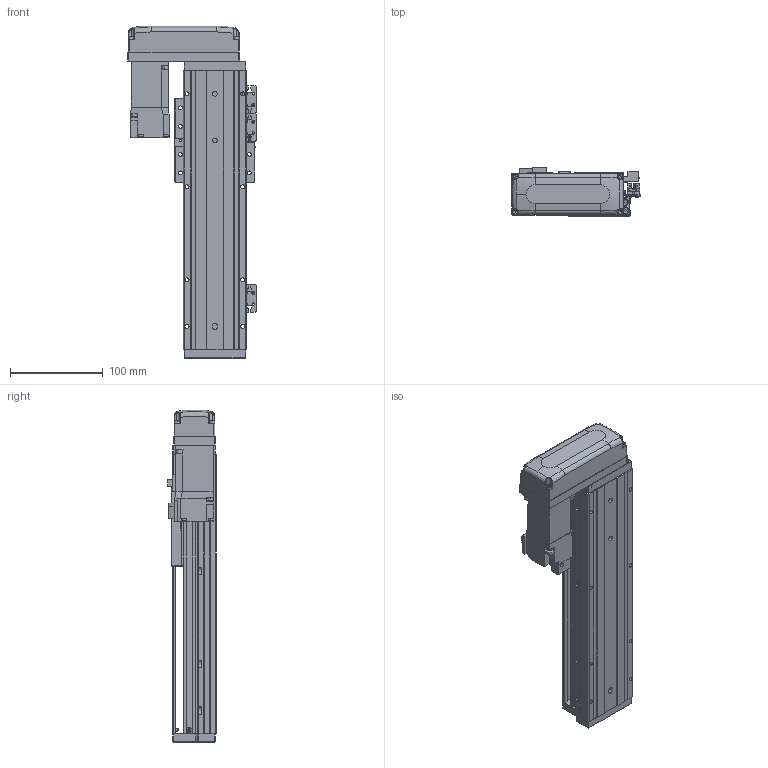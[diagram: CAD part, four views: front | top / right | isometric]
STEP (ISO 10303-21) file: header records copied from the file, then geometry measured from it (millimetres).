
FILE_DESCRIPTION (( 'STEP AP203' ), '1' );
FILE_NAME ('KTHAL60-150-BR-M10-C4L.step', '2022-03-19T08:43:41', ( '微软用户' ), ( '微软中国' ), 'SwSTEP 2.0', 'SolidWorks 2020', '' );
FILE_SCHEMA (( 'CONFIG_CONTROL_DESIGN' ));
Length unit declared in the file: millimetre
Products named in the file (18): EE_SX911P_R; HG-KR13（三菱）; KTHA60-001_300; CTHA60-017; CTHA60-015-2_CTHA60-015-2; KTHLA60-002; CTHA60-021; CTHA60-033; KTHA60-004; GBT 70.1-M4×16; GBT 70.1-M3×15; KTHA60-005; GBT77-2000M3-3; KTHAL60-150-BR-M10-C4L; GB¨uT 70.2-M3¡Á5_M3¡Á6; GBT 70.1-M3℅6; GBT 70.3-M3℅6; CTHA60-016
Assembly tree (51 placements, depth 2):
  KTHAL60-150-BR-M10-C4L
    KTHA60-001_300
    KTHLA60-002
    KTHA60-004
    KTHA60-005
    GB¨uT 70.2-M3¡Á5_M3¡Á6  x5
    GBT 70.3-M3℅6  x4
    EE_SX911P_R  x3
    CTHA60-017  x3
    CTHA60-021  x2
    GBT 70.1-M4×16  x10
    GBT77-2000M3-3  x6
    GBT 70.1-M3℅6  x6
    CTHA60-016
    HG-KR13（三菱）
    CTHA60-015-2_CTHA60-015-2
    CTHA60-033
    GBT 70.1-M3×15  x4
Bounding box: 137.82 x 52.3 x 357 mm (x, y, z)
Volume: 960979.1 mm3; surface area: 236382.3 mm2
Topology: 54 solids, 54 shells, 2235 faces, 5275 edges, 3233 vertices
Faces by surface type: plane 1276, cylinder 541, cone 280, torus 98, bspline 26, sphere 14
Entity records: 38055 total; most frequent: CARTESIAN_POINT 7224, DIRECTION 5913, ORIENTED_EDGE 5694, EDGE_CURVE 2847, AXIS2_PLACEMENT_3D 1989, VECTOR 1935, LINE 1935, VERTEX_POINT 1782
